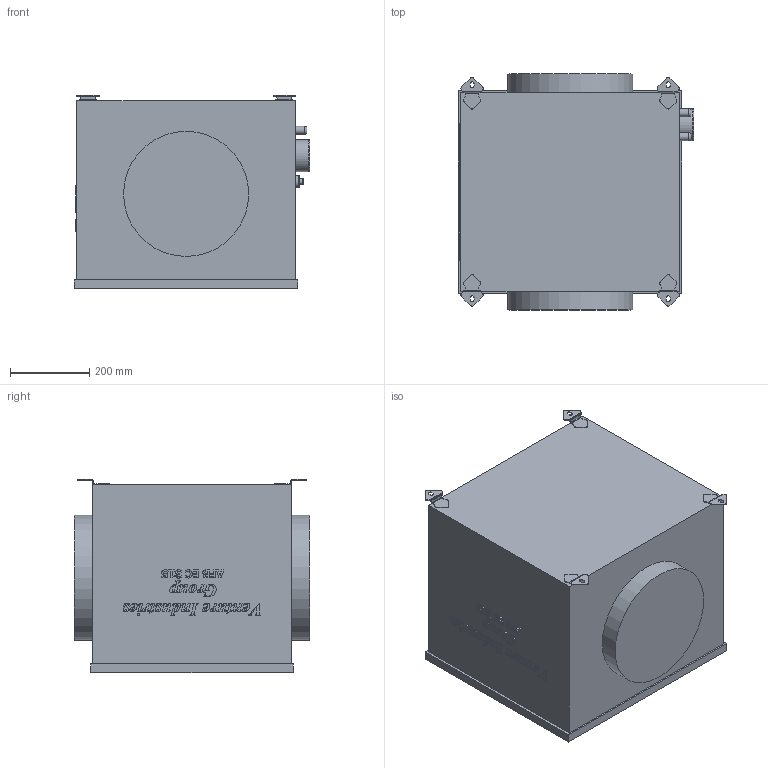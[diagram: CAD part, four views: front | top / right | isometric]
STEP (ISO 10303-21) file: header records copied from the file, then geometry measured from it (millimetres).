
FILE_DESCRIPTION(/* description */ (''),/* implementation_level */ '2;1');
FILE_NAME(/* name */ 'D:\Piotr - Dokumenty\Modele uproszczone\AFB EC\AFB_EC_315\AFB_EC_315.stp',/* time_stamp */ '2021-03-23T14:03:17+01:00',/* author */ ('Piotr.Nowotniak'),/* organization */ (''),/* preprocessor_version */ 'ST-DEVELOPER v18',/* originating_system */ 'Autodesk Inventor 2020',/* authorisation */ '');
FILE_SCHEMA (('AUTOMOTIVE_DESIGN { 1 0 10303 214 3 1 1 }'));
Length unit declared in the file: millimetre
Products named in the file (1): AFB_315
Bounding box: 592.5 x 594 x 486.46 mm (x, y, z)
Volume: 138427281.9 mm3; surface area: 1703130.6 mm2
Topology: 1 solids, 1 shells, 810 faces, 2245 edges, 1490 vertices
Faces by surface type: bspline 381, plane 341, cylinder 83, torus 5
Full cylindrical faces by diameter (mm): 15 x1, 20.2 x2, 30 x1, 80 x1, 315 x2
Entity records: 32121 total; most frequent: CARTESIAN_POINT 13581, ORIENTED_EDGE 4490, DIRECTION 2504, EDGE_CURVE 2245, VERTEX_POINT 1490, LINE 1322, VECTOR 1322, EDGE_LOOP 871
